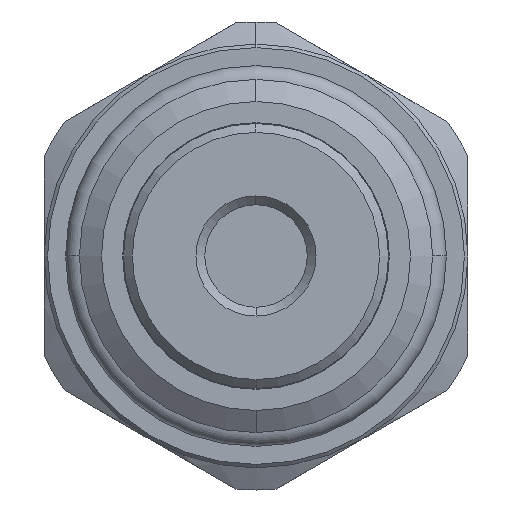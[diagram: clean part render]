
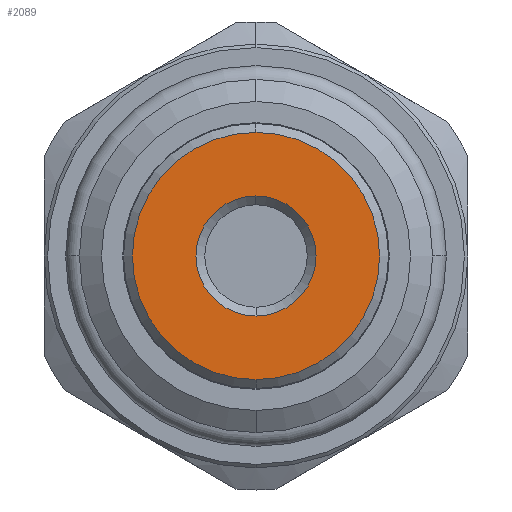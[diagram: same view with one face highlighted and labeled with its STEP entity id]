
A CAD part, left-side view. The second image highlights one B-rep face of the part: STEP entity #2089.
In plain terms, the highlighted planar face has unit normal (-1, 0, 0).
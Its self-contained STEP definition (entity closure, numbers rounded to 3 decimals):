
#129 = AXIS2_PLACEMENT_3D ( 'NONE', #926, #924, #913 ) ;
#167 = VERTEX_POINT ( 'NONE', #3453 ) ;
#197 = FACE_OUTER_BOUND ( 'NONE', #1674, .T. ) ;
#314 = ORIENTED_EDGE ( 'NONE', *, *, #2694, .T. ) ;
#425 = FACE_BOUND ( 'NONE', #1886, .T. ) ;
#586 = ORIENTED_EDGE ( 'NONE', *, *, #5220, .T. ) ;
#599 = ORIENTED_EDGE ( 'NONE', *, *, #4358, .T. ) ;
#721 = CIRCLE ( 'NONE', #1262, 3.4 ) ;
#913 = DIRECTION ( 'NONE',  ( 0., 0., 1. ) ) ;
#924 = DIRECTION ( 'NONE',  ( -1., 0., 0. ) ) ;
#926 = CARTESIAN_POINT ( 'NONE',  ( -84.318, 0., 0. ) ) ;
#928 = CARTESIAN_POINT ( 'NONE',  ( -84.318, 0., 7. ) ) ;
#1068 = AXIS2_PLACEMENT_3D ( 'NONE', #5339, #5337, #5332 ) ;
#1107 = AXIS2_PLACEMENT_3D ( 'NONE', #1304, #1302, #1293 ) ;
#1262 = AXIS2_PLACEMENT_3D ( 'NONE', #4668, #4666, #4663 ) ;
#1293 = DIRECTION ( 'NONE',  ( 0., 0., 1. ) ) ;
#1302 = DIRECTION ( 'NONE',  ( -1., 0., 0. ) ) ;
#1304 = CARTESIAN_POINT ( 'NONE',  ( -84.318, 0., 0. ) ) ;
#1306 = DIRECTION ( 'NONE',  ( 0., 0., 1. ) ) ;
#1479 = ORIENTED_EDGE ( 'NONE', *, *, #3923, .T. ) ;
#1674 = EDGE_LOOP ( 'NONE', ( #1479, #586 ) ) ;
#1886 = EDGE_LOOP ( 'NONE', ( #314, #599 ) ) ;
#1891 = VERTEX_POINT ( 'NONE', #928 ) ;
#1902 = CARTESIAN_POINT ( 'NONE',  ( -84.318, 0., -3.4 ) ) ;
#2089 = ADVANCED_FACE ( 'NONE', ( #425, #197 ), #3802, .F. ) ;
#2281 = CARTESIAN_POINT ( 'NONE',  ( -84.318, 0., -13.856 ) ) ;
#2320 = CIRCLE ( 'NONE', #129, 7. ) ;
#2335 = VERTEX_POINT ( 'NONE', #3353 ) ;
#2574 = CIRCLE ( 'NONE', #1107, 7. ) ;
#2694 = EDGE_CURVE ( 'NONE', #3706, #2335, #4942, .T. ) ;
#2818 = DIRECTION ( 'NONE',  ( 1., 0., 0. ) ) ;
#3353 = CARTESIAN_POINT ( 'NONE',  ( -84.318, 0., 3.4 ) ) ;
#3453 = CARTESIAN_POINT ( 'NONE',  ( -84.318, 0., -7. ) ) ;
#3706 = VERTEX_POINT ( 'NONE', #1902 ) ;
#3802 = PLANE ( 'NONE',  #4293 ) ;
#3923 = EDGE_CURVE ( 'NONE', #1891, #167, #2320, .T. ) ;
#4293 = AXIS2_PLACEMENT_3D ( 'NONE', #2281, #2818, #1306 ) ;
#4358 = EDGE_CURVE ( 'NONE', #2335, #3706, #721, .T. ) ;
#4663 = DIRECTION ( 'NONE',  ( 0., 0., 1. ) ) ;
#4666 = DIRECTION ( 'NONE',  ( 1., 0., 0. ) ) ;
#4668 = CARTESIAN_POINT ( 'NONE',  ( -84.318, 0., 0. ) ) ;
#4942 = CIRCLE ( 'NONE', #1068, 3.4 ) ;
#5220 = EDGE_CURVE ( 'NONE', #167, #1891, #2574, .T. ) ;
#5332 = DIRECTION ( 'NONE',  ( 0., 0., 1. ) ) ;
#5337 = DIRECTION ( 'NONE',  ( 1., 0., 0. ) ) ;
#5339 = CARTESIAN_POINT ( 'NONE',  ( -84.318, 0., 0. ) ) ;
